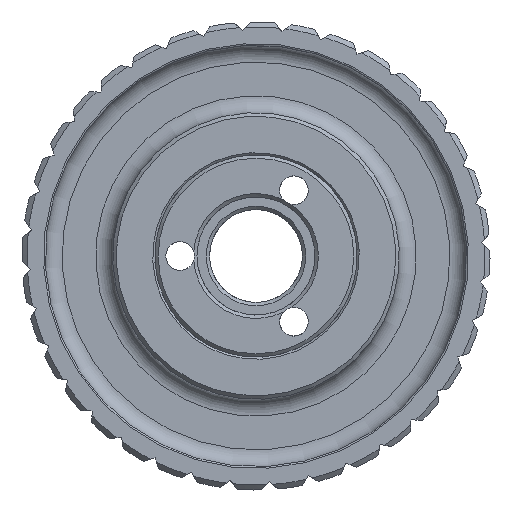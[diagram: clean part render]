
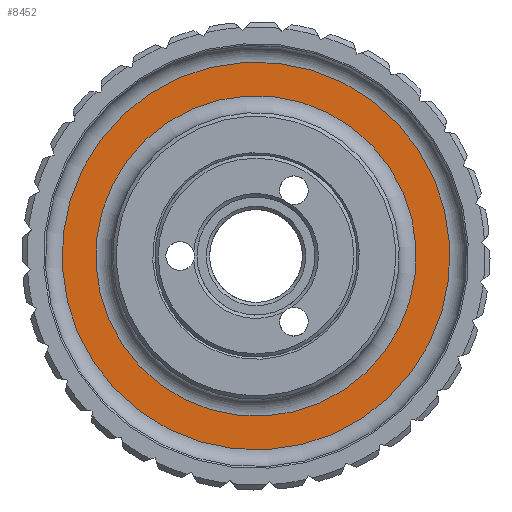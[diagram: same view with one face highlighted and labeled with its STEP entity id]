
A CAD part, left-side view. The second image highlights one B-rep face of the part: STEP entity #8452.
In plain terms, the highlighted planar face has unit normal (-1, 0, 0).
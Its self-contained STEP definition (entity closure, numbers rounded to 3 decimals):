
#1930=PLANE('',#9051);
#2142=FACE_BOUND('',#2807,.T.);
#2364=FACE_OUTER_BOUND('',#2806,.T.);
#2806=EDGE_LOOP('',(#6440));
#2807=EDGE_LOOP('',(#6441));
#3227=CIRCLE('',#9050,19.);
#3228=CIRCLE('',#9052,23.);
#3697=VERTEX_POINT('',#12985);
#3698=VERTEX_POINT('',#12988);
#4686=EDGE_CURVE('',#3697,#3697,#3227,.T.);
#4687=EDGE_CURVE('',#3698,#3698,#3228,.T.);
#6440=ORIENTED_EDGE('',*,*,#4687,.F.);
#6441=ORIENTED_EDGE('',*,*,#4686,.F.);
#8452=ADVANCED_FACE('',(#2364,#2142),#1930,.T.);
#9050=AXIS2_PLACEMENT_3D('',#12986,#10349,#10350);
#9051=AXIS2_PLACEMENT_3D('',#12987,#10351,#10352);
#9052=AXIS2_PLACEMENT_3D('',#12989,#10353,#10354);
#10349=DIRECTION('center_axis',(-1.,0.,0.));
#10350=DIRECTION('ref_axis',(0.,-1.,0.));
#10351=DIRECTION('center_axis',(-1.,0.,0.));
#10352=DIRECTION('ref_axis',(0.,0.,1.));
#10353=DIRECTION('center_axis',(1.,0.,0.));
#10354=DIRECTION('ref_axis',(0.,-1.,0.));
#12985=CARTESIAN_POINT('',(3.,19.,0.));
#12986=CARTESIAN_POINT('Origin',(3.,0.,
0.));
#12987=CARTESIAN_POINT('Origin',(3.,25.,0.));
#12988=CARTESIAN_POINT('',(3.,23.,0.));
#12989=CARTESIAN_POINT('Origin',(3.,0.,
0.));
